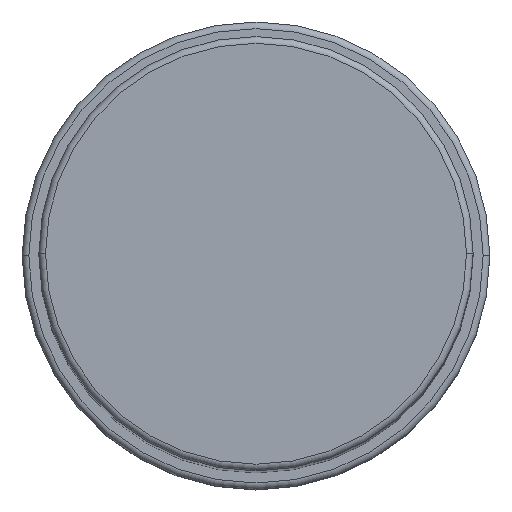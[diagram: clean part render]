
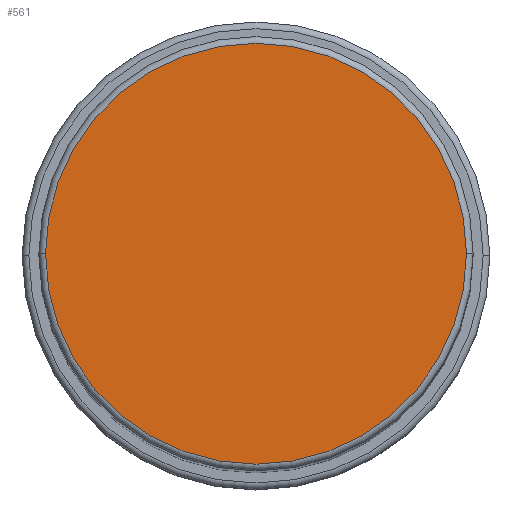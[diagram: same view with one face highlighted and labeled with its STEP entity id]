
A CAD part, top view. The second image highlights one B-rep face of the part: STEP entity #561.
In plain terms, the highlighted planar face has unit normal (0, 0, 1).
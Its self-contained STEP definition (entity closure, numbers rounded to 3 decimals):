
#62 = DIRECTION ( 'NONE',  ( 1., 0., 0. ) ) ;
#66 = CIRCLE ( 'NONE', #1692, 31.5 ) ;
#106 = PLANE ( 'NONE',  #1041 ) ;
#136 = EDGE_CURVE ( 'NONE', #1423, #568, #66, .T. ) ;
#386 = DIRECTION ( 'NONE',  ( 0., 0., 1. ) ) ;
#393 = DIRECTION ( 'NONE',  ( 0., 0., 1. ) ) ;
#540 = EDGE_CURVE ( 'NONE', #568, #1423, #851, .T. ) ;
#561 = ADVANCED_FACE ( 'NONE', ( #1480 ), #106, .T. ) ;
#568 = VERTEX_POINT ( 'NONE', #912 ) ;
#713 = ORIENTED_EDGE ( 'NONE', *, *, #136, .T. ) ;
#787 = DIRECTION ( 'NONE',  ( 1., 0., 0. ) ) ;
#802 = AXIS2_PLACEMENT_3D ( 'NONE', #1062, #386, #787 ) ;
#851 = CIRCLE ( 'NONE', #802, 31.5 ) ;
#854 = ORIENTED_EDGE ( 'NONE', *, *, #540, .T. ) ;
#874 = CARTESIAN_POINT ( 'NONE',  ( 0., 0., 193. ) ) ;
#912 = CARTESIAN_POINT ( 'NONE',  ( -31.5, 0., 193. ) ) ;
#1041 = AXIS2_PLACEMENT_3D ( 'NONE', #1174, #393, #1584 ) ;
#1062 = CARTESIAN_POINT ( 'NONE',  ( 0., 0., 193. ) ) ;
#1174 = CARTESIAN_POINT ( 'NONE',  ( 0., 0., 193. ) ) ;
#1239 = EDGE_LOOP ( 'NONE', ( #713, #854 ) ) ;
#1306 = CARTESIAN_POINT ( 'NONE',  ( 31.5, 0., 193. ) ) ;
#1423 = VERTEX_POINT ( 'NONE', #1306 ) ;
#1480 = FACE_OUTER_BOUND ( 'NONE', #1239, .T. ) ;
#1540 = DIRECTION ( 'NONE',  ( 0., 0., 1. ) ) ;
#1584 = DIRECTION ( 'NONE',  ( 1., 0., 0. ) ) ;
#1692 = AXIS2_PLACEMENT_3D ( 'NONE', #874, #1540, #62 ) ;
